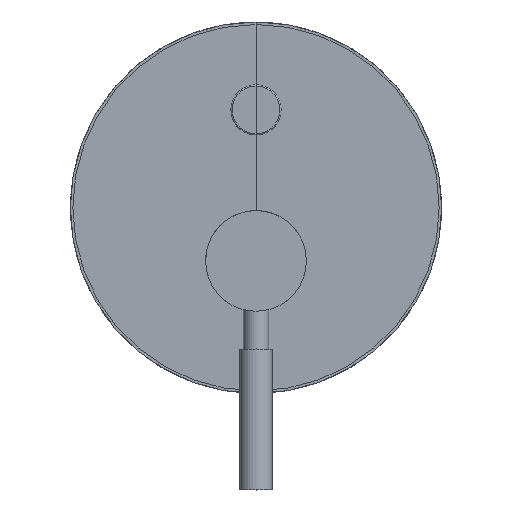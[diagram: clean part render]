
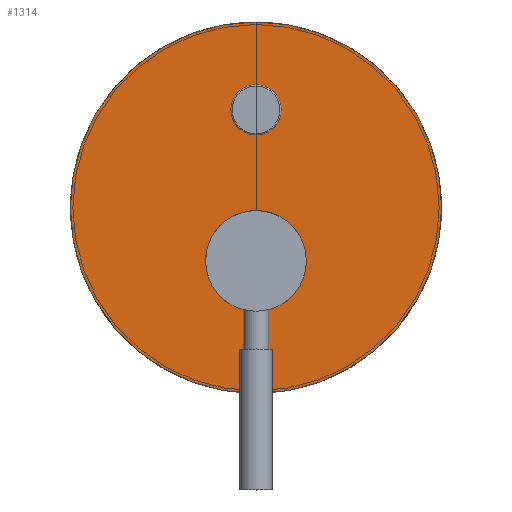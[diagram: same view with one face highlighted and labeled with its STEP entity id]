
A CAD part, top view. The second image highlights one B-rep face of the part: STEP entity #1314.
In plain terms, the highlighted planar face has unit normal (0, 0, 1).
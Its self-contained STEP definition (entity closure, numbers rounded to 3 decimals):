
#1314 = ADVANCED_FACE('',(#1315),#1335,.T.);
#1315 = FACE_BOUND('',#1316,.T.);
#1316 = EDGE_LOOP('',(#1317,#1328));
#1317 = ORIENTED_EDGE('',*,*,#1318,.T.);
#1318 = EDGE_CURVE('',#1319,#1321,#1323,.T.);
#1319 = VERTEX_POINT('',#1320);
#1320 = CARTESIAN_POINT('',(-73.781,46.219,
    5.));
#1321 = VERTEX_POINT('',#1322);
#1322 = CARTESIAN_POINT('',(73.781,46.219,
    5.));
#1323 = CIRCLE('',#1324,73.781);
#1324 = AXIS2_PLACEMENT_3D('',#1325,#1326,#1327);
#1325 = CARTESIAN_POINT('',(0.,46.219,
    5.));
#1326 = DIRECTION('',(0.,0.,1.));
#1327 = DIRECTION('',(1.,0.,-0.));
#1328 = ORIENTED_EDGE('',*,*,#1329,.T.);
#1329 = EDGE_CURVE('',#1321,#1319,#1330,.T.);
#1330 = CIRCLE('',#1331,73.781);
#1331 = AXIS2_PLACEMENT_3D('',#1332,#1333,#1334);
#1332 = CARTESIAN_POINT('',(0.,46.219,
    5.));
#1333 = DIRECTION('',(0.,0.,1.));
#1334 = DIRECTION('',(1.,0.,-0.));
#1335 = PLANE('',#1336);
#1336 = AXIS2_PLACEMENT_3D('',#1337,#1338,#1339);
#1337 = CARTESIAN_POINT('',(73.781,46.219,
    5.));
#1338 = DIRECTION('',(0.,0.,1.));
#1339 = DIRECTION('',(0.,1.,0.));
